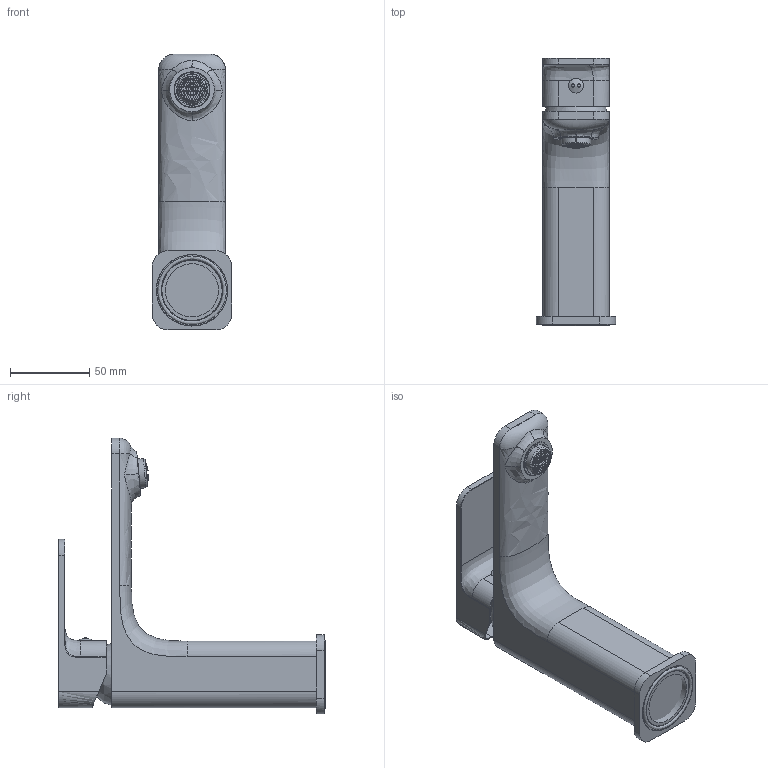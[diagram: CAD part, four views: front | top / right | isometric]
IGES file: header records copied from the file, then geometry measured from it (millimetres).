
Global section: file name: 461f4442-0178-469f-a0d5-b7db1e65e60b; native system: unknown; preprocessor: unknown; author: unknown; organization: unknown; date: 20191210.094022; units: millimetre
Bounding box: 50 x 168.3 x 174 mm (x, y, z)
Volume: 319270.4 mm3; surface area: 70325.7 mm2
Topology: 7 solids, 8 shells, 2222 faces, 7664 edges, 5249 vertices
Faces by surface type: bspline 2222
